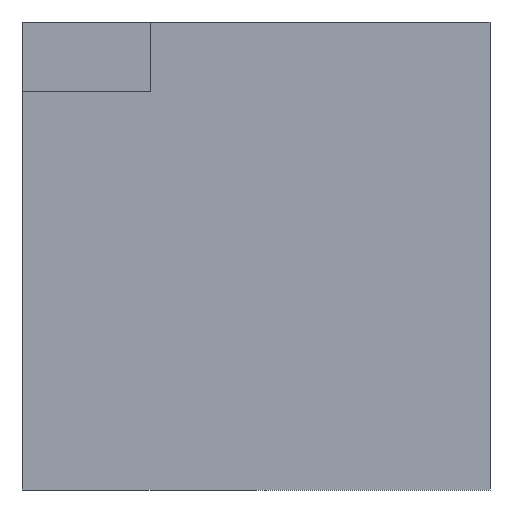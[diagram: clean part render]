
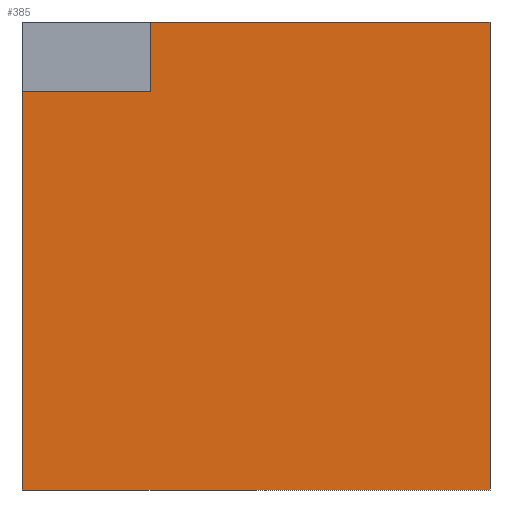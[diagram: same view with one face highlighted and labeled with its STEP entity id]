
A CAD part, left-side view. The second image highlights one B-rep face of the part: STEP entity #385.
In plain terms, the highlighted planar face has unit normal (-1, 0, 0).
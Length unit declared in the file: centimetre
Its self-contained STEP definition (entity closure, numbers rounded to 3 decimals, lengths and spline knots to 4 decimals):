
#1 = CARTESIAN_POINT ( 'NONE',  ( 0., 1000., 1000. ) ) ;
#2 = ORIENTED_EDGE ( 'NONE', *, *, #72, .T. ) ;
#5 = VERTEX_POINT ( 'NONE', #323 ) ;
#17 = DIRECTION ( 'NONE',  ( 0., -1., 0. ) ) ;
#29 = CARTESIAN_POINT ( 'NONE',  ( 0., 724.5929, 851.9918 ) ) ;
#42 = DIRECTION ( 'NONE',  ( 0., 0., -1. ) ) ;
#59 = CARTESIAN_POINT ( 'NONE',  ( 0., 1000., 0. ) ) ;
#64 = ORIENTED_EDGE ( 'NONE', *, *, #407, .F. ) ;
#66 = CARTESIAN_POINT ( 'NONE',  ( 0., 1000., 0. ) ) ;
#69 = LINE ( 'NONE', #482, #380 ) ;
#72 = EDGE_CURVE ( 'NONE', #387, #267, #69, .T. ) ;
#78 = VERTEX_POINT ( 'NONE', #480 ) ;
#82 = CARTESIAN_POINT ( 'NONE',  ( 0., 724.5929, 1000. ) ) ;
#88 = DIRECTION ( 'NONE',  ( 0., 0., -1. ) ) ;
#94 = VERTEX_POINT ( 'NONE', #268 ) ;
#99 = LINE ( 'NONE', #475, #245 ) ;
#111 = EDGE_CURVE ( 'NONE', #267, #5, #260, .T. ) ;
#149 = AXIS2_PLACEMENT_3D ( 'NONE', #408, #405, #42 ) ;
#186 = DIRECTION ( 'NONE',  ( 0., 0., -1. ) ) ;
#189 = DIRECTION ( 'NONE',  ( 0., -1., 0. ) ) ;
#195 = FACE_OUTER_BOUND ( 'NONE', #535, .T. ) ;
#201 = CARTESIAN_POINT ( 'NONE',  ( 0., 1000., 851.9918 ) ) ;
#204 = EDGE_CURVE ( 'NONE', #387, #78, #400, .T. ) ;
#238 = ORIENTED_EDGE ( 'NONE', *, *, #352, .F. ) ;
#245 = VECTOR ( 'NONE', #521, 100. ) ;
#257 = ORIENTED_EDGE ( 'NONE', *, *, #111, .T. ) ;
#260 = LINE ( 'NONE', #66, #355 ) ;
#267 = VERTEX_POINT ( 'NONE', #59 ) ;
#268 = CARTESIAN_POINT ( 'NONE',  ( 0., 0., 1000. ) ) ;
#272 = VECTOR ( 'NONE', #532, 100. ) ;
#274 = EDGE_CURVE ( 'NONE', #78, #373, #99, .T. ) ;
#282 = CARTESIAN_POINT ( 'NONE',  ( 0., 0., 1000. ) ) ;
#300 = VECTOR ( 'NONE', #189, 100. ) ;
#323 = CARTESIAN_POINT ( 'NONE',  ( 0., 0., 0. ) ) ;
#331 = ORIENTED_EDGE ( 'NONE', *, *, #204, .F. ) ;
#352 = EDGE_CURVE ( 'NONE', #94, #5, #450, .T. ) ;
#355 = VECTOR ( 'NONE', #17, 100. ) ;
#373 = VERTEX_POINT ( 'NONE', #82 ) ;
#374 = PLANE ( 'NONE',  #149 ) ;
#380 = VECTOR ( 'NONE', #186, 100. ) ;
#385 = ADVANCED_FACE ( 'NONE', ( #195 ), #374, .F. ) ;
#387 = VERTEX_POINT ( 'NONE', #201 ) ;
#391 = VECTOR ( 'NONE', #88, 100. ) ;
#400 = LINE ( 'NONE', #29, #300 ) ;
#405 = DIRECTION ( 'NONE',  ( 1., 0., 0. ) ) ;
#407 = EDGE_CURVE ( 'NONE', #373, #94, #536, .T. ) ;
#408 = CARTESIAN_POINT ( 'NONE',  ( 0., 1000., 1000. ) ) ;
#450 = LINE ( 'NONE', #282, #391 ) ;
#475 = CARTESIAN_POINT ( 'NONE',  ( 0., 724.5929, 851.9918 ) ) ;
#480 = CARTESIAN_POINT ( 'NONE',  ( 0., 724.5929, 851.9918 ) ) ;
#482 = CARTESIAN_POINT ( 'NONE',  ( 0., 1000., 1000. ) ) ;
#521 = DIRECTION ( 'NONE',  ( 0., 0., 1. ) ) ;
#532 = DIRECTION ( 'NONE',  ( 0., -1., 0. ) ) ;
#535 = EDGE_LOOP ( 'NONE', ( #537, #331, #2, #257, #238, #64 ) ) ;
#536 = LINE ( 'NONE', #1, #272 ) ;
#537 = ORIENTED_EDGE ( 'NONE', *, *, #274, .F. ) ;
